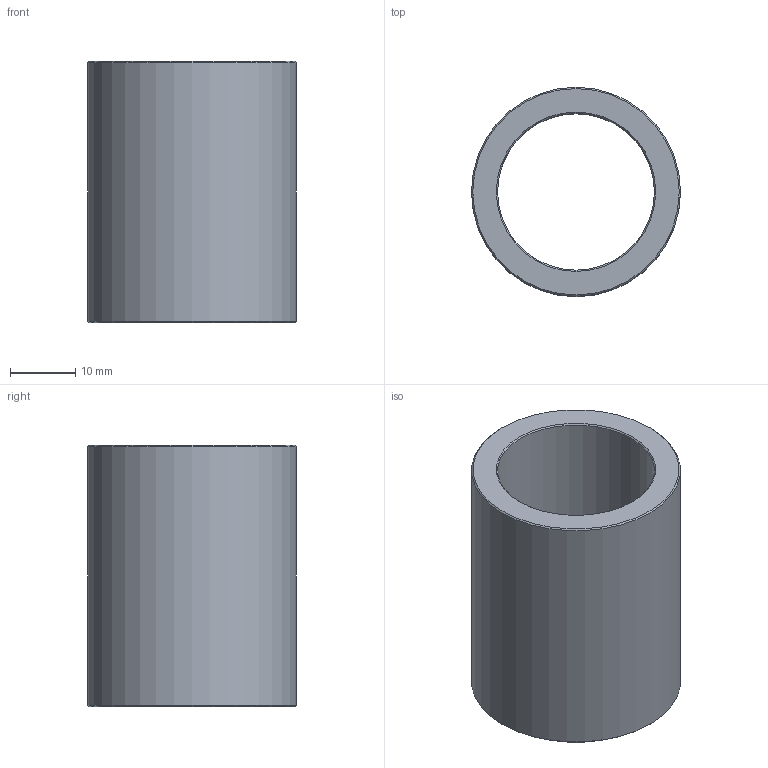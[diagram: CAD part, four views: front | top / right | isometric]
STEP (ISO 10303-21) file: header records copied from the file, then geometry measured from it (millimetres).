
FILE_DESCRIPTION(('STEP AP203'),'1');
FILE_NAME('C:/Users/Rodrigo/Desktop/GA4.024.040-1.step','2016-11-07T14:27:03',(' '),(' '),'Spatial InterOp 3D',' ',' ');
FILE_SCHEMA(('CONFIG_CONTROL_DESIGN'));
Length unit declared in the file: millimetre
Products named in the file (1): 1
Bounding box: 32 x 32 x 40 mm (x, y, z)
Volume: 14067.3 mm3; surface area: 7699.7 mm2
Topology: 1 solids, 1 shells, 8 faces, 14 edges, 8 vertices
Faces by surface type: cone 4, cylinder 2, plane 2
Full cylindrical faces by diameter (mm): 24 x1, 32 x1
Entity records: 212 total; most frequent: DIRECTION 34, CARTESIAN_POINT 25, AXIS2_PLACEMENT_3D 17, EDGE_LOOP 16, ORIENTED_EDGE 16, FACE_OUTER_BOUND 10, ADVANCED_FACE 8, EDGE_CURVE 8
